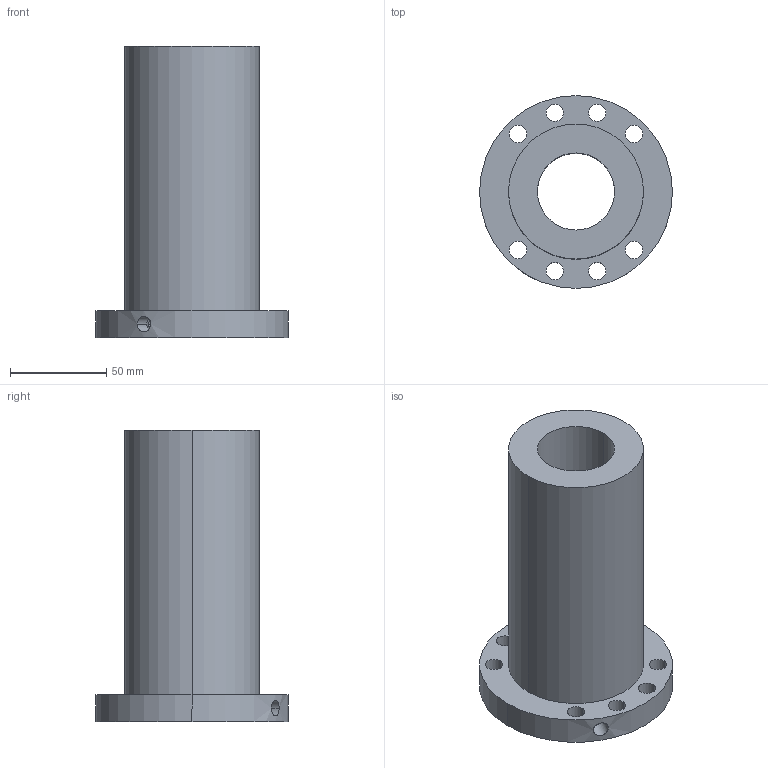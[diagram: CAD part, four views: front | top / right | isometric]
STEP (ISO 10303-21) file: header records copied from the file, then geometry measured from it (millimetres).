
FILE_DESCRIPTION((''),'2;1');
FILE_NAME('40-10K5_635','2008-04-10T',('yanyu'),(''),'PRO/ENGINEER BY PARAMETRIC TECHNOLOGY CORPORATION, 2005070','PRO/ENGINEER BY PARAMETRIC TECHNOLOGY CORPORATION, 2005070','');
FILE_SCHEMA(('CONFIG_CONTROL_DESIGN'));
Length unit declared in the file: millimetre
Products named in the file (1): 40-10K5_635
Bounding box: 100 x 100 x 151 mm (x, y, z)
Volume: 439248.5 mm3; surface area: 69416.6 mm2
Topology: 1 solids, 1 shells, 30 faces, 78 edges, 52 vertices
Faces by surface type: cylinder 26, plane 4
Entity records: 1072 total; most frequent: CARTESIAN_POINT 212, DIRECTION 182, ORIENTED_EDGE 156, AXIS2_PLACEMENT_3D 78, EDGE_CURVE 78, VERTEX_POINT 52, EDGE_LOOP 52, CIRCLE 48
